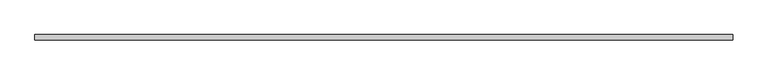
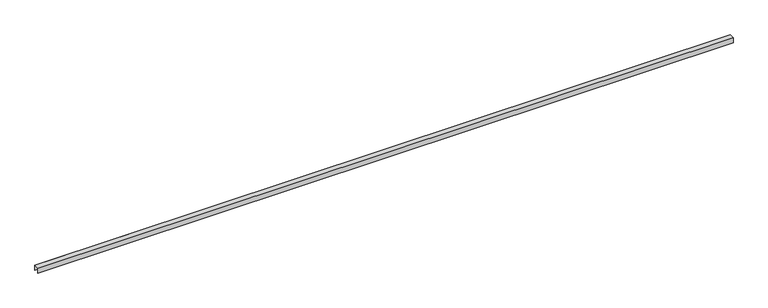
"""IFC4 building model written with IfcOpenShell, lengths in millimetres: proxy geometry, durlum_U94 : durlum_U94."""

from ifc_helpers import new_model, si_unit, frame, origin, place, context, project, spatial, polyline, outline, extrude, source, transform, mapped, element, save


def generic_models_f4ce44e0(model_context):
    return source(origin(), model_context, "Body", "SweptSolid", [
        extrude(outline(polyline([(15.0, 30.0), (15.0, 0.0), (14.2, 0.0), (14.2, 29.2), (-14.2, 29.2), (-14.2, 0.0), (-15.0, 0.0), (-15.0, 30.0), (15.0, 30.0)])), frame((-2000.0, 0.0, 0.0), z_axis=(1.0, 0.0, 0.0), x_axis=(0.0, 1.0, 0.0)), (0.0, 0.0, 1.0), 4000.0),
    ])


if __name__ == "__main__":
    model = new_model("IFC4")
    model_context = context("Model", 3, world=origin())
    ifc_project = project(units=[si_unit("LENGTHUNIT", "METRE", prefix="MILLI")], contexts=[model_context])
    site = spatial("IfcSite", under=ifc_project)
    building = spatial("IfcBuilding", under=site)
    placement = place(None, origin())
    generic_models_shape = generic_models_f4ce44e0(model_context)
    element("IfcBuildingElementProxy", 1, Name="durlum_U94 : durlum_U94", ObjectType="durlum_U94 : durlum_U94", at=placement, inside=building, context=model_context, shape_type="MappedRepresentation", body=[
        mapped(generic_models_shape, transform((0.0, 0.0, 0.0), x_axis=(1.0, 0.0, 0.0), y_axis=(0.0, 1.0, 0.0), z_axis=(0.0, 0.0, 1.0))),
    ])
    save(model, "model.ifc")
